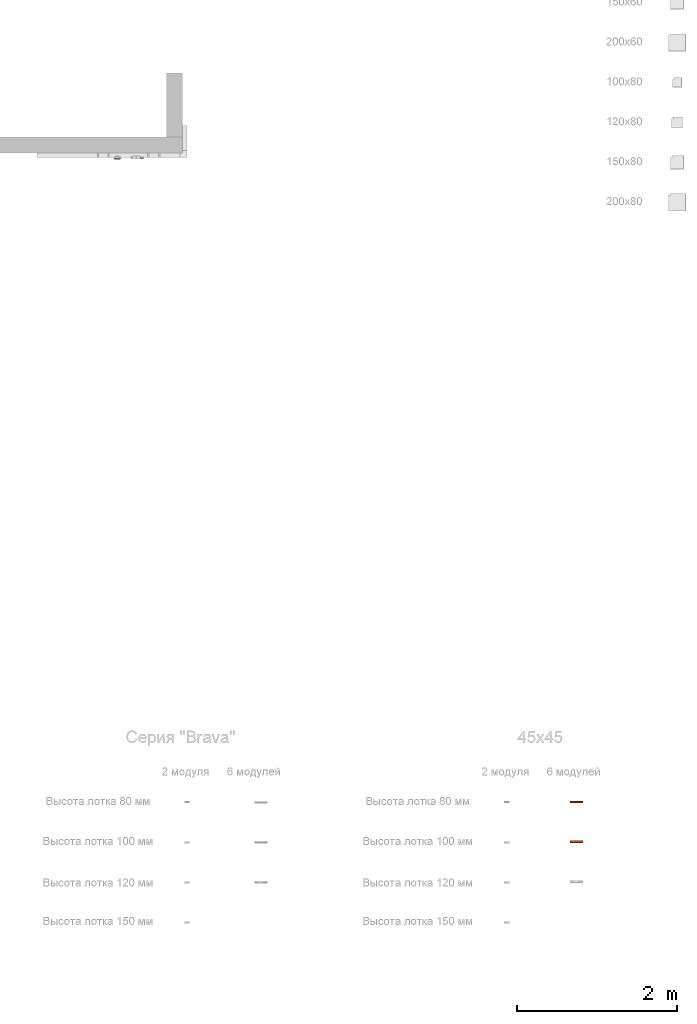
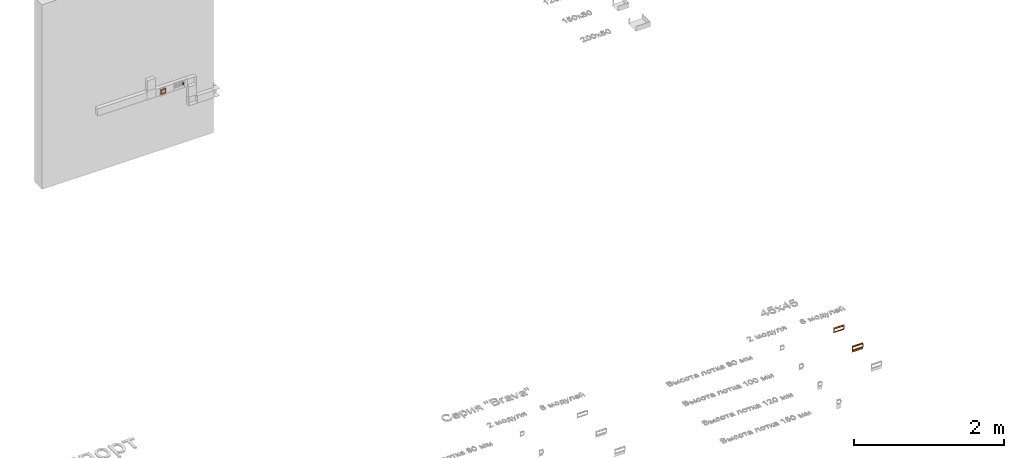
# One storey, part 71 of 71: 4 proxies.
"""IFC2X3 building model written with IfcOpenShell, lengths in millimetres."""

from ifc_helpers import new_model, entity, si_unit, converted_unit, derived_unit, direction, frame, origin, place, context, subcontext, project, spatial, faceted_brep, source, transform, mapped, material, material_list, type_object, type_shapes, element, save


model = new_model("IFC2X3")

# Units and contexts
model_context = context("Model", 3, precision=0.01, world=origin(), true_north=direction((6.12303176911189e-17, 1.0)))
body_context = subcontext(model_context, "Body", "Model", "MODEL_VIEW")
ifc_project = project(units=[si_unit("LENGTHUNIT", "METRE", prefix="MILLI"), si_unit("AREAUNIT", "SQUARE_METRE"), si_unit("VOLUMEUNIT", "CUBIC_METRE"), converted_unit("PLANEANGLEUNIT", "DEGREE", entity("IfcRatioMeasure", 0.0174532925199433), si_unit("PLANEANGLEUNIT", "RADIAN"), dimensions=[0, 0, 0, 0, 0, 0, 0]), si_unit("MASSUNIT", "GRAM", prefix="KILO"), derived_unit("MASSDENSITYUNIT", [(si_unit("MASSUNIT", "GRAM", prefix="KILO"), 1), (si_unit("LENGTHUNIT", "METRE"), -3)]), si_unit("TIMEUNIT", "SECOND"), si_unit("FREQUENCYUNIT", "HERTZ"), si_unit("THERMODYNAMICTEMPERATUREUNIT", "DEGREE_CELSIUS"), derived_unit("THERMALTRANSMITTANCEUNIT", [(si_unit("MASSUNIT", "GRAM", prefix="KILO"), 1), (si_unit("THERMODYNAMICTEMPERATUREUNIT", "KELVIN"), -1), (si_unit("TIMEUNIT", "SECOND"), -3)]), derived_unit("VOLUMETRICFLOWRATEUNIT", [(si_unit("LENGTHUNIT", "METRE"), 3), (si_unit("TIMEUNIT", "SECOND"), -1)]), si_unit("ELECTRICCURRENTUNIT", "AMPERE"), si_unit("ELECTRICVOLTAGEUNIT", "VOLT"), si_unit("POWERUNIT", "WATT"), si_unit("FORCEUNIT", "NEWTON", prefix="KILO"), si_unit("ILLUMINANCEUNIT", "LUX"), si_unit("LUMINOUSFLUXUNIT", "LUMEN"), si_unit("LUMINOUSINTENSITYUNIT", "CANDELA"), derived_unit("USERDEFINED", [(si_unit("MASSUNIT", "GRAM", prefix="KILO"), -1), (si_unit("LENGTHUNIT", "METRE"), -2), (si_unit("TIMEUNIT", "SECOND"), 3), (si_unit("LUMINOUSFLUXUNIT", "LUMEN"), 1)]), derived_unit("LINEARVELOCITYUNIT", [(si_unit("LENGTHUNIT", "METRE"), 1), (si_unit("TIMEUNIT", "SECOND"), -1)]), si_unit("PRESSUREUNIT", "PASCAL"), derived_unit("USERDEFINED", [(si_unit("LENGTHUNIT", "METRE"), -2), (si_unit("MASSUNIT", "GRAM", prefix="KILO"), 1), (si_unit("TIMEUNIT", "SECOND"), -2)])], contexts=[model_context])

# Site, building, storey
site_placement = place(None, origin())
site = spatial("IfcSite", under=ifc_project, at=site_placement, Name="Default", CompositionType="ELEMENT")
building_placement = place(site_placement, origin())
building = spatial("IfcBuilding", under=site, at=building_placement, Name="Наименование здания", CompositionType="ELEMENT")
storey_placement = place(building_placement, origin())
storey = spatial("IfcBuildingStorey", under=building, at=storey_placement, Name="Этаж 01", CompositionType="ELEMENT", Elevation=0.0)

# Proxies
ifc_material_1 = material(Name="DKC_Пластик_Серо-черный")
ifc_material_2 = material(Name="DKC_Пластик_Белый")
ifc_material_list_1 = material_list([ifc_material_1, ifc_material_2])
ifc_material_list_2 = material_list([ifc_material_1, ifc_material_2])
building_element_proxy_type_1 = type_object("IfcBuildingElementProxyType", Name="Категория 5e", PredefinedType="NOTDEFINED", material=ifc_material_list_2)
shared_shape_1 = source(origin(), body_context, "Body", "Brep", [
    faceted_brep([(7.5, -25.0, 8.25000000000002), (-7.5, -25.0, 8.25000000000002), (-7.5, -25.0, -8.25), (7.5, -25.0, -8.25), (-2.620002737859, -25.0, -2.65625000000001), (-4.52170142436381, -25.0, -2.65625), (-4.5217014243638, -25.0, 2.36695910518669), (4.5217014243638, -25.0, 2.36695910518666), (4.52170142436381, -25.0, -2.65625000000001), (2.620002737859, -25.0, -2.65625), (2.620002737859, -25.0, -4.28326939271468), (1.25323285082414, -25.0, -4.28326939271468), (1.25323285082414, -25.0, -5.38721564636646), (-1.25323285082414, -25.0, -5.38721564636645), (-1.25323285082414, -25.0, -4.28326939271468), (-2.620002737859, -25.0, -4.28326939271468), (7.5, -16.2913439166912, 8.25000000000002), (7.5, -16.2913439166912, -8.25), (-7.5, -16.2913439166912, -8.25), (-7.5, -16.2913439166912, 8.25000000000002), (-4.52170142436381, -20.0, -2.65625), (-2.620002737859, -20.0, -2.65625), (-2.620002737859, -20.0, -4.28326939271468), (-1.25323285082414, -20.0, -4.28326939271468), (-1.25323285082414, -20.0, -5.38721564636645), (1.25323285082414, -20.0, -5.38721564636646), (1.25323285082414, -20.0, -4.28326939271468), (2.620002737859, -20.0, -4.28326939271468), (2.620002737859, -20.0, -2.65625), (4.52170142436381, -20.0, -2.65625000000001), (4.5217014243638, -20.0, 2.36695910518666), (-4.5217014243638, -20.0, 2.36695910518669)], [[[0, 1, 2, 3], [4, 5, 6, 7, 8, 9, 10, 11, 12, 13, 14, 15]], [[16, 17, 18, 19]], [[1, 0, 16, 19]], [[2, 1, 19, 18]], [[3, 2, 18, 17]], [[0, 3, 17, 16]], [[20, 21, 22, 23, 24, 25, 26, 27, 28, 29, 30, 31]], [[21, 20, 5, 4]], [[22, 21, 4, 15]], [[23, 22, 15, 14]], [[24, 23, 14, 13]], [[25, 24, 13, 12]], [[26, 25, 12, 11]], [[27, 26, 11, 10]], [[28, 27, 10, 9]], [[29, 28, 9, 8]], [[30, 29, 8, 7]], [[31, 30, 7, 6]], [[20, 31, 6, 5]]]),
    faceted_brep([(10.5000000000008, -25.0, 22.5000000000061), (-10.5000000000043, -25.0, 22.5000000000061), (-10.5000000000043, -25.0, -22.5000000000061), (10.5000000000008, -25.0, -22.5000000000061), (7.5, -25.0, 8.25000000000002), (7.5, -25.0, -8.25), (-7.5, -25.0, -8.25), (-7.5, -25.0, 8.25000000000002), (10.5000000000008, 0.0, 20.5000000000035), (10.5000000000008, 0.0, 17.5000000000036), (-10.5000000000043, 0.0, 17.5000000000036), (-10.5000000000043, 0.0, 20.5000000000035), (10.5000000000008, -16.2913439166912, 22.5000000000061), (-10.5000000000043, -16.2913439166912, 22.5000000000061), (-10.5000000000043, -10.0, 20.5000000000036), (-10.5000000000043, -20.0, 17.5000000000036), (-10.5000000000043, -20.0, -17.5000000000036), (-10.5000000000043, 0.0, -17.5000000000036), (-10.5000000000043, 0.0, -20.5000000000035), (-10.5000000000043, -10.0, -20.5000000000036), (-10.5000000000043, -16.2913439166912, -22.5000000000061), (10.5000000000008, -16.2913439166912, -22.5000000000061), (10.5000000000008, -10.0, -20.5000000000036), (10.5000000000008, 0.0, -20.5000000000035), (10.5000000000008, 0.0, -17.5000000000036), (10.5000000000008, -20.0, -17.5000000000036), (10.5000000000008, -20.0, 17.5000000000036), (10.5000000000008, -10.0, 20.5000000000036), (7.5, -20.0, 8.25000000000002), (7.5, -20.0, -8.25), (-7.5, -20.0, -8.25), (-7.5, -20.0, 8.25000000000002)], [[[0, 1, 2, 3], [4, 5, 6, 7]], [[8, 9, 10, 11]], [[1, 0, 12, 13]], [[2, 1, 13, 14, 11, 10, 15, 16, 17, 18, 19, 20]], [[3, 2, 20, 21]], [[0, 3, 21, 22, 23, 24, 25, 26, 9, 8, 27, 12]], [[5, 4, 28, 29]], [[6, 5, 29, 30]], [[7, 6, 30, 31]], [[4, 7, 31, 28]], [[16, 25, 24, 17]], [[26, 15, 10, 9]], [[29, 28, 31, 30], [25, 16, 15, 26]], [[14, 27, 8, 11]], [[27, 14, 13, 12]], [[22, 19, 18, 23]], [[19, 22, 21, 20]], [[24, 23, 18, 17]]], outer=[[True, False], [True], [True], [True], [True], [True], [True], [True], [True], [True], [True], [True], [False, True], [True], [True], [True], [True], [True]]),
])
type_shapes(building_element_proxy_type_1, [shared_shape_1])
proxy_1_placement = place(storey_placement, frame((7102.38762663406, -3862.67030671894, 1023.58229952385)))
element("IfcBuildingElementProxy", 1, at=proxy_1_placement, inside=storey, type_object=building_element_proxy_type_1, material=ifc_material_list_1, Name="КНС_КомпьютерныеРозетки_DKC:Категория 5e", ObjectType="Категория 5e", context=body_context, shape_type="MappedRepresentation", body=[
    mapped(shared_shape_1, transform((0.0, 0.0, 0.0), scale=1.0)),
])
building_element_proxy_type_2 = type_object("IfcBuildingElementProxyType", Name="2 модуля", PredefinedType="NOTDEFINED", material=ifc_material_2)
shared_shape_2 = source(origin(), body_context, "Body", "Brep", [
    faceted_brep([(25.0, -9.0, 24.9768143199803), (25.0, 0.0, 24.9768143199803), (25.0, 0.0, -24.9768143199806), (25.0, -9.0, -24.9768143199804), (31.6093817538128, -7.7623343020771, -31.5861960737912), (31.6093817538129, -7.7623343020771, 31.5861960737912), (37.7285968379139, -4.97469187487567, -37.7054111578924), (37.728596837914, -4.97469187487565, 37.7054111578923), (43.0, -0.800000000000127, -42.9768143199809), (43.0, -0.80000000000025, 42.9768143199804), (43.0, 0.0, 42.9768143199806), (43.0, 0.0, -42.9768143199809), (-25.0, 0.0, -24.9768143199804), (-25.0, -9.0, -24.9768143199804), (-31.6093817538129, -7.76233430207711, -31.586196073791), (-37.728596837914, -4.97469187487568, -37.7054111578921), (-43.0, -0.800000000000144, -42.9768143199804), (-43.0, 0.0, -42.9768143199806), (-25.0, 0.0, 24.9768143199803), (-25.0, -9.0, 24.9768143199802), (-31.6093817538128, -7.7623343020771, 31.586196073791), (-37.7285968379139, -4.97469187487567, 37.7054111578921), (-43.0, -0.800000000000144, 42.9768143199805), (-43.0, 0.0, 42.9768143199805)], [[[0, 1, 2, 3]], [[3, 4, 5, 0]], [[4, 6, 7, 5]], [[6, 8, 9, 7]], [[10, 9, 8, 11]], [[3, 2, 12, 13]], [[13, 14, 4, 3]], [[14, 15, 6, 4]], [[15, 16, 8, 6]], [[11, 8, 16, 17]], [[13, 12, 18, 19]], [[19, 20, 14, 13]], [[20, 21, 15, 14]], [[21, 22, 16, 15]], [[17, 16, 22, 23]], [[19, 18, 1, 0]], [[0, 5, 20, 19]], [[5, 7, 21, 20]], [[7, 9, 22, 21]], [[23, 22, 9, 10]], [[23, 18, 12]], [[18, 23, 1]], [[12, 17, 23]], [[10, 1, 23]], [[1, 10, 2]], [[11, 2, 10]], [[2, 11, 17]], [[17, 12, 2]]]),
])
type_shapes(building_element_proxy_type_2, [shared_shape_2])
proxy_2_placement = place(storey_placement, frame((6799.76236313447, -3880.74530671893, 1000.0)))
element("IfcBuildingElementProxy", 2, at=proxy_2_placement, inside=storey, type_object=building_element_proxy_type_2, material=ifc_material_2, Name="КНС_РамкаДляМонтажаЭУИBravaВКоробкиPDD-N60_DKC:2 модуля", ObjectType="2 модуля", context=body_context, shape_type="MappedRepresentation", body=[
    mapped(shared_shape_2, transform((0.0, 0.0, 0.0), scale=1.0)),
])
building_element_proxy_type_3 = type_object("IfcBuildingElementProxyType", Name="45х45", PredefinedType="NOTDEFINED", material=ifc_material_2)
shared_shape_3 = source(origin(), body_context, "Body", "Brep", [
    faceted_brep([(-73.8192492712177, -18.0, 26.8192492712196), (-70.9686648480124, -18.0, 28.0), (-82.0, -18.0, 28.0), (-82.0, -18.0, -17.0), (-70.9686648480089, -18.0, -17.0), (-73.8192492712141, -18.0, -15.8192492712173), (-75.0, -18.0, -12.9686648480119), (-75.0, -18.0, 23.9686648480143), (82.0, -18.0, 28.0), (70.96866484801, -18.0, 28.0), (73.8192492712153, -18.0, 26.8192492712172), (75.0, -18.0, 23.9686648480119), (75.0, -18.0, -12.9686648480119), (73.8192492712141, -18.0, -15.8192492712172), (70.9686648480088, -18.0, -17.0), (82.0, -18.0, -17.0), (82.0, -1.0, -40.0), (82.0, 8.40000000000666, -40.0), (82.0, 8.40000000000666, -39.0), (82.0, 0.0, -39.0), (82.0, 0.0, 39.0), (82.0, 8.40000000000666, 39.0), (82.0, 8.40000000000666, 40.0), (82.0, -1.0, 40.0), (82.0, -5.39126188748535, 39.4574348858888), (82.0, -9.51840787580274, 37.8623725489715), (82.0, -13.133207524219, 35.3107492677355), (82.0, -16.018245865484, 31.956034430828), (82.0, -16.0182458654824, -20.9560344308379), (82.0, -13.133207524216, -24.3107492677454), (82.0, -9.51840787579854, -26.8623725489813), (82.0, -5.39126188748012, -28.4574348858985), (82.0, -1.0, -29.0), (-82.0, -1.0, 40.0), (-82.0, 8.40000000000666, 40.0), (-82.0, 8.40000000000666, 39.0), (-82.0, 0.0, 39.0), (-82.0, 0.0, -39.0), (-82.0, 8.40000000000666, -39.0), (-82.0, 8.40000000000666, -40.0), (-82.0, -1.0, -40.0), (-82.0, -1.0, -29.0), (-82.0, -5.39126188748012, -28.4574348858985), (-82.0, -9.51840787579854, -26.8623725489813), (-82.0, -13.133207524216, -24.3107492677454), (-82.0, -16.0182458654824, -20.9560344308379), (-82.0, -16.018245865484, 31.956034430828), (-82.0, -13.133207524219, 35.3107492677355), (-82.0, -9.51840787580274, 37.8623725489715), (-82.0, -5.39126188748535, 39.4574348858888), (-7.84403318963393, -1.0, 40.0), (7.84408283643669, -1.0, -29.0), (75.0, 0.0, -12.9686648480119), (73.819249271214, 0.0, -15.8192492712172), (70.9686648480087, 0.0, -17.0), (-70.9686648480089, 0.0, -17.0), (-73.8192492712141, 0.0, -15.8192492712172), (-75.0, 0.0, -12.9686648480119), (-75.0, 0.0, 23.9686648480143), (-73.8192492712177, 0.0, 26.8192492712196), (-70.9686648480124, 0.0, 28.0), (75.0, 0.0, 23.9686648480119), (73.8192492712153, 0.0, 26.8192492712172), (70.96866484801, 0.0, 28.0), (-1.05664245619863e-07, -7.50391799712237, 38.7869038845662), (10.4878486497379, -16.6040193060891, 31.0146194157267), (0.0, -18.0, 28.0), (-8.03406533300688e-08, -11.4043260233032, 36.6977951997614), (6.74915888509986e-08, -14.6789576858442, 33.7221699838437), (-10.7041046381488, -4.3234931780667, 39.6912442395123), (-10.4878486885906, -16.6040193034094, -20.0146194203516), (0.0, -18.0, -17.0), (-2.7857907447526e-08, -14.6789576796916, -22.7221699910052), (2.49660769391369e-08, -11.4043260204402, -25.6977952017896), (10.7041051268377, -4.32349317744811, -28.6912442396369), (-2.08968483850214e-08, -7.50391799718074, -27.7869038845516)], [[[0, 1, 2, 3, 4, 5, 6, 7]], [[8, 9, 10, 11, 12, 13, 14, 15]], [[16, 17, 18, 19, 20, 21, 22, 23, 24, 25, 26, 27, 8, 15, 28, 29, 30, 31, 32]], [[33, 34, 35, 36, 37, 38, 39, 40, 41, 42, 43, 44, 45, 3, 2, 46, 47, 48, 49]], [[22, 21, 35, 34]], [[18, 17, 39, 38]], [[23, 22, 34, 33, 50]], [[16, 32, 51, 41, 40]], [[17, 16, 40, 39]], [[19, 18, 38, 37]], [[19, 52, 20]], [[52, 19, 53]], [[54, 53, 19]], [[19, 37, 54]], [[55, 54, 37]], [[56, 55, 37]], [[37, 57, 56]], [[57, 37, 36]], [[36, 58, 57]], [[58, 36, 59]], [[60, 59, 36]], [[60, 36, 20]], [[61, 20, 52]], [[20, 61, 62]], [[62, 63, 20]], [[20, 63, 60]], [[21, 20, 36, 35]], [[64, 49, 48]], [[9, 65, 1, 66]], [[67, 48, 47]], [[67, 47, 68]], [[69, 49, 64]], [[23, 69, 24]], [[68, 26, 67]], [[25, 24, 64]], [[64, 67, 25]], [[26, 25, 67]], [[46, 2, 1]], [[9, 8, 27]], [[33, 69, 23, 50]], [[64, 48, 67]], [[27, 65, 9]], [[26, 68, 27]], [[68, 65, 27]], [[65, 46, 1]], [[24, 69, 64]], [[68, 47, 46]], [[46, 65, 68]], [[33, 49, 69]], [[4, 3, 45]], [[28, 15, 14]], [[4, 70, 14, 71]], [[72, 45, 44]], [[72, 44, 73]], [[70, 45, 72]], [[74, 42, 41]], [[45, 70, 4]], [[29, 28, 72]], [[75, 43, 42]], [[32, 74, 41, 51]], [[42, 74, 75]], [[74, 32, 31]], [[29, 73, 30]], [[75, 73, 43]], [[75, 31, 30]], [[74, 31, 75]], [[73, 29, 72]], [[70, 28, 14]], [[73, 44, 43]], [[28, 70, 72]], [[73, 75, 30]], [[63, 9, 66, 1, 60]], [[0, 59, 60, 1]], [[7, 58, 59, 0]], [[58, 7, 6, 57]], [[5, 56, 57, 6]], [[4, 55, 56, 5]], [[55, 4, 71, 14, 54]], [[13, 53, 54, 14]], [[12, 52, 53, 13]], [[61, 52, 12, 11]], [[10, 62, 61, 11]], [[9, 63, 62, 10]]]),
])
type_shapes(building_element_proxy_type_3, [shared_shape_3])
proxy_3_placement = place(storey_placement, frame((12545.2713454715, -11923.4358834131, 0.0)))
element("IfcBuildingElementProxy", 3, at=proxy_3_placement, inside=storey, type_object=building_element_proxy_type_3, material=ifc_material_2, Name="КНС_РамкаСуппорт_ILC_DKC:45х45", ObjectType="45х45", context=body_context, shape_type="MappedRepresentation", body=[
    mapped(shared_shape_3, transform((0.0, 0.0, 0.0), scale=1.0)),
])
building_element_proxy_type_4 = type_object("IfcBuildingElementProxyType", Name="45х45", PredefinedType="NOTDEFINED", material=ifc_material_2)
shared_shape_4 = source(origin(), body_context, "Body", "Brep", [
    faceted_brep([(-73.8192492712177, -18.0, 36.8192492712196), (-70.9686648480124, -18.0, 38.0), (-82.0, -18.0, 38.0), (-82.0, -18.0, -7.0), (-70.9686648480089, -18.0, -7.0), (-73.8192492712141, -18.0, -5.81924927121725), (-75.0, -18.0, -2.96866484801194), (-75.0, -18.0, 33.9686648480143), (82.0, -18.0, 38.0), (70.96866484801, -18.0, 38.0), (73.8192492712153, -18.0, 36.8192492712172), (75.0, -18.0, 33.9686648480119), (75.0, -18.0, -2.96866484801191), (73.8192492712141, -18.0, -5.8192492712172), (70.9686648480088, -18.0, -7.0), (82.0, -18.0, -7.0), (82.0, -1.0, -50.0), (82.0, 8.40000000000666, -50.0), (82.0, 8.40000000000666, -49.0), (82.0, 0.0, -49.0), (82.0, 0.0, 49.0), (82.0, 8.40000000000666, 49.0), (82.0, 8.40000000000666, 50.0), (82.0, -1.0, 50.0), (82.0, -5.39126188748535, 49.4574348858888), (82.0, -9.51840787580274, 47.8623725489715), (82.0, -13.133207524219, 45.3107492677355), (82.0, -16.018245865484, 41.956034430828), (82.0, -16.0182458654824, -10.9560344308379), (82.0, -13.133207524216, -14.3107492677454), (82.0, -9.51840787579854, -16.8623725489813), (82.0, -5.39126188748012, -18.4574348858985), (82.0, -1.0, -19.0), (-82.0, -1.0, 50.0), (-82.0, 8.40000000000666, 50.0), (-82.0, 8.40000000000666, 49.0), (-82.0, 0.0, 49.0), (-82.0, 0.0, -49.0), (-82.0, 8.40000000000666, -49.0), (-82.0, 8.40000000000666, -50.0), (-82.0, -1.0, -50.0), (-82.0, -1.0, -19.0), (-82.0, -5.39126188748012, -18.4574348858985), (-82.0, -9.51840787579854, -16.8623725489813), (-82.0, -13.133207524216, -14.3107492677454), (-82.0, -16.0182458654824, -10.9560344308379), (-82.0, -16.018245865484, 41.956034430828), (-82.0, -13.133207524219, 45.3107492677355), (-82.0, -9.51840787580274, 47.8623725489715), (-82.0, -5.39126188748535, 49.4574348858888), (-7.84403318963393, -1.0, 50.0), (7.84408283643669, -1.0, -19.0), (75.0, 0.0, -2.96866484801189), (73.819249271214, 0.0, -5.81924927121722), (70.9686648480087, 0.0, -7.0), (-70.9686648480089, 0.0, -7.0), (-73.8192492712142, 0.0, -5.81924927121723), (-75.0, 0.0, -2.96866484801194), (-75.0, 0.0, 33.9686648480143), (-73.8192492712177, 0.0, 36.8192492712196), (-70.9686648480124, 0.0, 38.0), (75.0, 0.0, 33.968664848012), (73.8192492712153, 0.0, 36.8192492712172), (70.96866484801, 0.0, 38.0), (-1.05664245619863e-07, -7.50391799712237, 48.7869038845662), (10.487848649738, -16.6040193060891, 41.0146194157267), (0.0, -18.0, 38.0), (-8.03406533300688e-08, -11.4043260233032, 46.6977951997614), (6.74915888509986e-08, -14.6789576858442, 43.7221699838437), (-10.7041046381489, -4.32349317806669, 49.6912442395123), (-10.4878486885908, -16.6040193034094, -10.0146194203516), (0.0, -18.0, -7.0), (-2.7857907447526e-08, -14.6789576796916, -12.7221699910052), (2.49660769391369e-08, -11.4043260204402, -15.6977952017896), (10.7041051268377, -4.32349317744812, -18.6912442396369), (-2.08968483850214e-08, -7.50391799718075, -17.7869038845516)], [[[0, 1, 2, 3, 4, 5, 6, 7]], [[8, 9, 10, 11, 12, 13, 14, 15]], [[16, 17, 18, 19, 20, 21, 22, 23, 24, 25, 26, 27, 8, 15, 28, 29, 30, 31, 32]], [[33, 34, 35, 36, 37, 38, 39, 40, 41, 42, 43, 44, 45, 3, 2, 46, 47, 48, 49]], [[22, 21, 35, 34]], [[18, 17, 39, 38]], [[23, 22, 34, 33, 50]], [[16, 32, 51, 41, 40]], [[17, 16, 40, 39]], [[19, 18, 38, 37]], [[19, 52, 20]], [[52, 19, 53]], [[54, 53, 19]], [[19, 37, 54]], [[55, 54, 37]], [[56, 55, 37]], [[37, 57, 56]], [[57, 37, 36]], [[36, 58, 57]], [[58, 36, 59]], [[60, 59, 36]], [[60, 36, 20]], [[61, 20, 52]], [[20, 61, 62]], [[62, 63, 20]], [[20, 63, 60]], [[21, 20, 36, 35]], [[64, 49, 48]], [[9, 65, 1, 66]], [[67, 48, 47]], [[67, 47, 68]], [[69, 49, 64]], [[23, 69, 24]], [[68, 26, 67]], [[25, 24, 64]], [[64, 67, 25]], [[26, 25, 67]], [[46, 2, 1]], [[9, 8, 27]], [[33, 69, 23, 50]], [[64, 48, 67]], [[27, 65, 9]], [[26, 68, 27]], [[68, 65, 27]], [[65, 46, 1]], [[24, 69, 64]], [[68, 47, 46]], [[46, 65, 68]], [[33, 49, 69]], [[4, 3, 45]], [[28, 15, 14]], [[4, 70, 14, 71]], [[72, 45, 44]], [[72, 44, 73]], [[70, 45, 72]], [[74, 42, 41]], [[45, 70, 4]], [[29, 28, 72]], [[75, 43, 42]], [[32, 74, 41, 51]], [[42, 74, 75]], [[74, 32, 31]], [[29, 73, 30]], [[75, 73, 43]], [[75, 31, 30]], [[74, 31, 75]], [[73, 29, 72]], [[70, 28, 14]], [[73, 44, 43]], [[28, 70, 72]], [[73, 75, 30]], [[63, 9, 66, 1, 60]], [[0, 59, 60, 1]], [[7, 58, 59, 0]], [[58, 7, 6, 57]], [[5, 56, 57, 6]], [[4, 55, 56, 5]], [[55, 4, 71, 14, 54]], [[13, 53, 54, 14]], [[12, 52, 53, 13]], [[52, 12, 11, 61]], [[10, 62, 61, 11]], [[9, 63, 62, 10]]]),
])
type_shapes(building_element_proxy_type_4, [shared_shape_4])
proxy_4_placement = place(storey_placement, frame((12545.2713454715, -12423.4358834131, 0.0)))
element("IfcBuildingElementProxy", 4, at=proxy_4_placement, inside=storey, type_object=building_element_proxy_type_4, material=ifc_material_2, Name="КНС_РамкаСуппорт_ILC_DKC:45х45", ObjectType="45х45", context=body_context, shape_type="MappedRepresentation", body=[
    mapped(shared_shape_4, transform((0.0, 0.0, 0.0), scale=1.0)),
])

save(model, "model.ifc")
